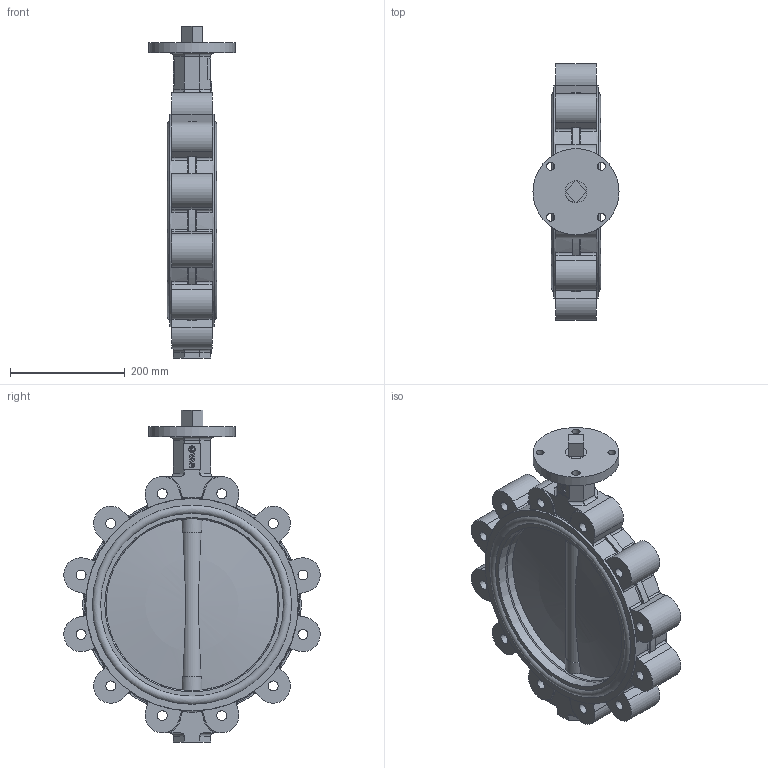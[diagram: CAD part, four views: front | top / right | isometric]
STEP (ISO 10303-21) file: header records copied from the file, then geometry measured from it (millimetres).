
FILE_DESCRIPTION(('STEP AP242'), '1');
FILE_NAME('Ïîâîðîòíûé çàòâîð ïîä ýëåêòðîïðèâîä', '', ('UNSPECIFIED'), ('UNSPECIFIED'), 'C3D Converter', 'C3D Toolkit', '');
FILE_SCHEMA(('AP242_MANAGED_MODEL_BASED_3D_ENGINEERING_MIM_LF { 1 0 10303 442 1 1 4 }'));
Length unit declared in the file: millimetre
Products named in the file (6): П
Assembly tree (6 placements, depth 2):
  (unnamed)
    (unnamed)
    П  x2
    (unnamed)
    (unnamed)
    (unnamed)
Bounding box: 150 x 446.14 x 578 mm (x, y, z)
Volume: 7038781.4 mm3; surface area: 974916.8 mm2
Topology: 6 solids, 6 shells, 679 faces, 1773 edges, 1138 vertices
Faces by surface type: plane 247, cylinder 188, extrusion 157, torus 79, cone 4, sphere 4
Full cylindrical faces by diameter (mm): 11.421 x1, 14 x4, 17.294 x12, 27 x5, 29.7 x1, 37.05 x4, 38.184 x5, 150 x1, 300 x1, 303.75 x2, 318.75 x2, 332.708 x4, 346.667 x4, 370 x2
Entity records: 26480 total; most frequent: CARTESIAN_POINT 8054, ORIENTED_EDGE 3422, DIRECTION 2988, EDGE_CURVE 1711, VERTEX_POINT 1133, AXIS2_PLACEMENT_3D 1009, VECTOR 970, LINE 813
